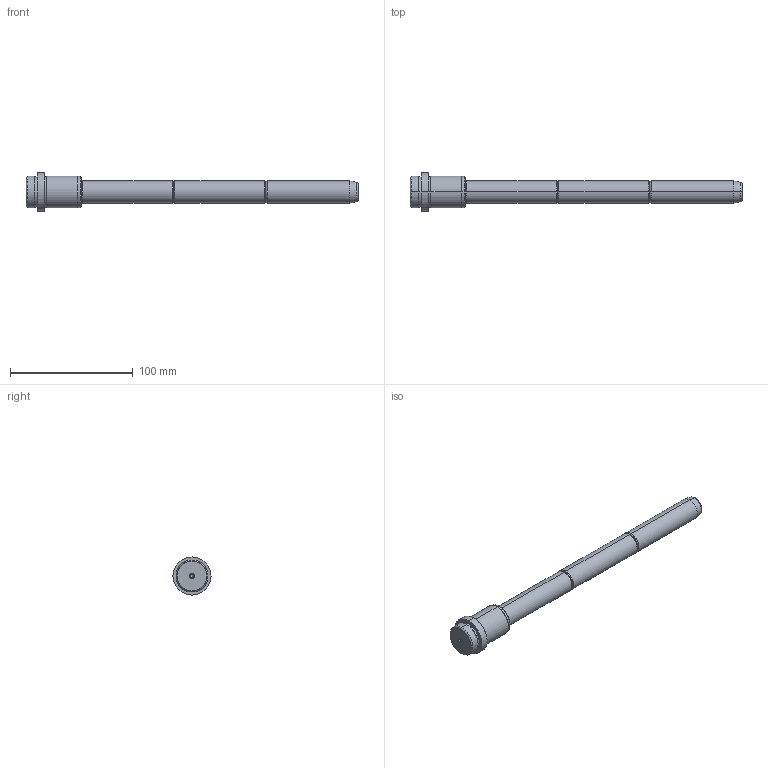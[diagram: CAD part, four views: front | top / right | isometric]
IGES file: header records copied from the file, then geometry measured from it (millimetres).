
Start section: SolidWorks IGES FILE using analytic representation for surfaces
Global section: file name: D:\zzzzz\Delta\D03\18\D03 - 18x36x225.IGS; native system: SolidWorks 2004 by SolidWorks Corporation; preprocessor: Version 5.3; author: Hkn; date: 080327.173326; units: millimetre
Bounding box: 270 x 31 x 31 mm (x, y, z)
Surface area: 18009.5 mm2 (no closed solid volume)
Topology: 0 solids, 0 shells, 56 faces, 768 edges, 764 vertices
Faces by surface type: revolution 36, bspline 20
